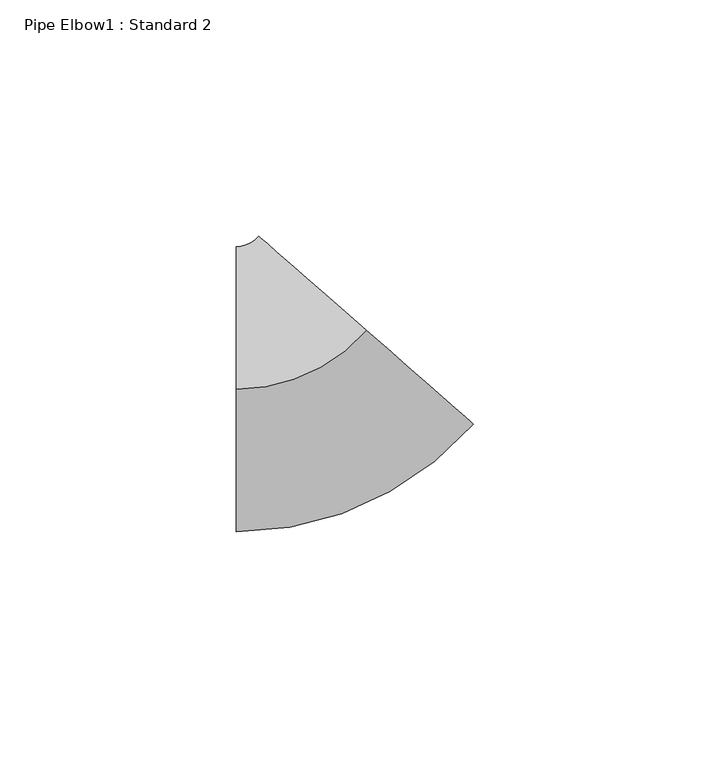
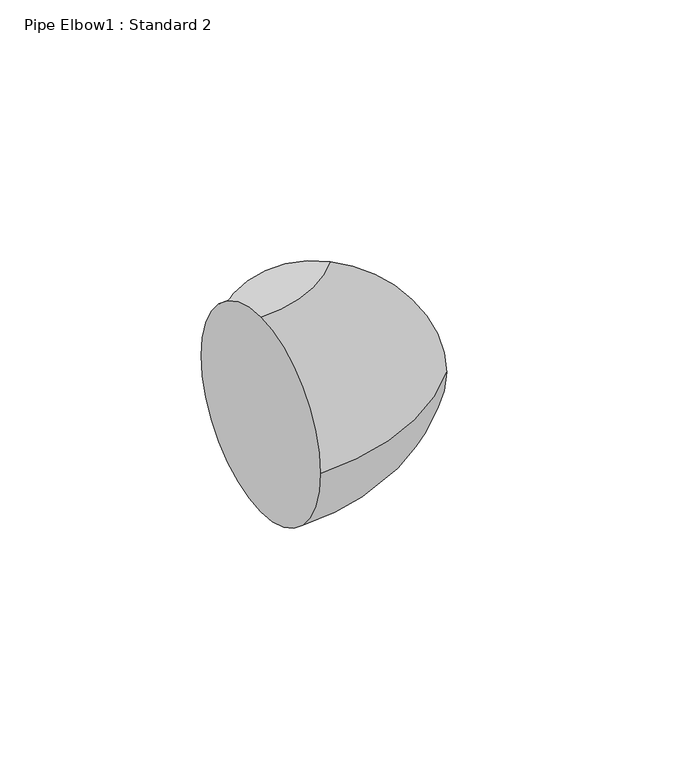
"""IFC4 building model written with IfcOpenShell, lengths in millimetres: pipe fitting geometry, Pipe Elbow1 : Standard 2."""

from ifc_helpers import new_model, si_unit, point, frame, origin, place, context, project, spatial, circle_curve, ellipse_curve, trimmed, source, transform, mapped, element, save
from ifc_brep_helpers import plane_surface, revolved_surface, advanced_brep


def pipe_elbow1_standard_2_c895df00(model_context):
    return source(origin(), model_context, "Body", "AdvancedBrep", [
        advanced_brep(
        [(-16.5682114, 0.0, 30.1625), (-16.5682114, 30.1625, 0.0), (-16.5682114, 0.0, -30.1625), (-16.5682114, -30.1625, 0.0), (10.9102441, 12.4688493, 30.1625), (33.6098378, -7.393297, 0.0), (10.9102441, 12.4688493, -30.1625), (-11.7893496, 32.3309955, 0.0)],
        [
            (0, 1, circle_curve(frame((-16.5682114, 0.0, 0.0), z_axis=(-1.0, 0.0, 0.0), x_axis=(0.0, 1.0, 0.0)), 30.1625)),
            (1, 2, circle_curve(frame((-16.5682114, 0.0, 0.0), z_axis=(-1.0, 0.0, 0.0), x_axis=(0.0, 1.0, 0.0)), 30.1625)),
            (2, 3, circle_curve(frame((-16.5682114, 0.0, 0.0), z_axis=(-1.0, 0.0, 0.0), x_axis=(0.0, 1.0, 0.0)), 30.1625)),
            (3, 0, circle_curve(frame((-16.5682114, 0.0, 0.0), z_axis=(-1.0, 0.0, 0.0), x_axis=(0.0, 1.0, 0.0)), 30.1625)),
            (4, 5, circle_curve(frame((10.9102441, 12.4688493, 0.0), z_axis=(0.6585046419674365, 0.7525766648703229, 0.0), x_axis=(-0.7525766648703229, 0.6585046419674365, 0.0)), 30.1625)),
            (5, 6, circle_curve(frame((10.9102441, 12.4688493, 0.0), z_axis=(0.6585046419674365, 0.7525766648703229, 0.0), x_axis=(-0.7525766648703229, 0.6585046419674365, 0.0)), 30.1625)),
            (6, 7, circle_curve(frame((10.9102441, 12.4688493, 0.0), z_axis=(0.6585046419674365, 0.7525766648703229, 0.0), x_axis=(-0.7525766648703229, 0.6585046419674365, 0.0)), 30.1625)),
            (7, 4, circle_curve(frame((10.9102441, 12.4688493, 0.0), z_axis=(0.6585046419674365, 0.7525766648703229, 0.0), x_axis=(-0.7525766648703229, 0.6585046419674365, 0.0)), 30.1625)),
            (7, 1, circle_curve(frame((-16.5682114, 36.5125, 0.0), z_axis=(0.0, 0.0, -1.0), x_axis=(0.0, -1.0, 0.0)), 6.35)),
            (0, 4, circle_curve(frame((-16.5682114, 36.5125, 30.1625), z_axis=(0.0, 0.0, 1.0), x_axis=(0.0, -1.0, 0.0)), 36.5125)),
            (6, 2, circle_curve(frame((-16.5682114, 36.5125, -30.1625), z_axis=(0.0, 0.0, -1.0), x_axis=(0.0, -1.0, 0.0)), 36.5125)),
            (5, 3, circle_curve(frame((-16.5682114, 36.5125, 0.0), z_axis=(0.0, 0.0, -1.0), x_axis=(0.0, -1.0, 0.0)), 66.675)),
        ],
        [
            plane_surface(frame((-16.5682114, 0.0, 0.0), z_axis=(-1.0, 0.0, 0.0), x_axis=(0.0, 0.0, 1.0))),
            plane_surface(frame((10.9102441, 12.4688493, 0.0), z_axis=(0.6585046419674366, 0.7525766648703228, 0.0), x_axis=(0.0, 0.0, 1.0))),
            revolved_surface(trimmed(ellipse_curve(frame((-16.5682114, 0.0, 0.0), z_axis=(-1.0, 0.0, 0.0), x_axis=(0.0, 1.0, 0.0)), 30.1625, 30.1625), [point((-16.5682114, 0.0, 30.1625))], [point((-16.5682114, 30.1625, 0.0))], True, "CARTESIAN"), (-16.5682114, 36.5125, 0.0), (0.0, 0.0, 1.0)),
            revolved_surface(trimmed(ellipse_curve(frame((-16.5682114, 0.0, 0.0), z_axis=(-1.0, 0.0, 0.0), x_axis=(0.0, 1.0, 0.0)), 30.1625, 30.1625), [point((-16.5682114, 30.1625, 0.0))], [point((-16.5682114, 0.0, -30.1625))], True, "CARTESIAN"), (-16.5682114, 36.5125, 0.0), (0.0, 0.0, 1.0)),
            revolved_surface(trimmed(ellipse_curve(frame((-16.5682114, 0.0, 0.0), z_axis=(-1.0, 0.0, 0.0), x_axis=(0.0, 1.0, 0.0)), 30.1625, 30.1625), [point((-16.5682114, 0.0, -30.1625))], [point((-16.5682114, -30.1625, 0.0))], True, "CARTESIAN"), (-16.5682114, 36.5125, 0.0), (0.0, 0.0, 1.0)),
            revolved_surface(trimmed(ellipse_curve(frame((-16.5682114, 0.0, 0.0), z_axis=(-1.0, 0.0, 0.0), x_axis=(0.0, 1.0, 0.0)), 30.1625, 30.1625), [point((-16.5682114, -30.1625, 0.0))], [point((-16.5682114, 0.0, 30.1625))], True, "CARTESIAN"), (-16.5682114, 36.5125, 0.0), (0.0, 0.0, 1.0)),
        ],
        [
            (0, [[1, 2, 3, 4]]),
            (1, [[5, 6, 7, 8]]),
            (2, [[9, -1, 10, -8]]),
            (3, [[11, -2, -9, -7]]),
            (4, [[12, -3, -11, -6]]),
            (5, [[-10, -4, -12, -5]]),
        ],
    ),
        advanced_brep(
        [(-16.5682114, 0.0, 30.1625), (-16.5682114, 30.1625, 0.0), (-16.5682114, 0.0, -30.1625), (-16.5682114, -30.1625, 0.0), (10.9102441, 12.4688493, 30.1625), (33.6098378, -7.393297, 0.0), (10.9102441, 12.4688493, -30.1625), (-11.7893496, 32.3309955, 0.0)],
        [
            (0, 1, circle_curve(frame((-16.5682114, 0.0, 0.0), z_axis=(-1.0, 0.0, 0.0), x_axis=(0.0, 1.0, 0.0)), 30.1625)),
            (1, 2, circle_curve(frame((-16.5682114, 0.0, 0.0), z_axis=(-1.0, 0.0, 0.0), x_axis=(0.0, 1.0, 0.0)), 30.1625)),
            (2, 3, circle_curve(frame((-16.5682114, 0.0, 0.0), z_axis=(-1.0, 0.0, 0.0), x_axis=(0.0, 1.0, 0.0)), 30.1625)),
            (3, 0, circle_curve(frame((-16.5682114, 0.0, 0.0), z_axis=(-1.0, 0.0, 0.0), x_axis=(0.0, 1.0, 0.0)), 30.1625)),
            (4, 5, circle_curve(frame((10.9102441, 12.4688493, 0.0), z_axis=(0.6585046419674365, 0.7525766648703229, 0.0), x_axis=(-0.7525766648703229, 0.6585046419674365, 0.0)), 30.1625)),
            (5, 6, circle_curve(frame((10.9102441, 12.4688493, 0.0), z_axis=(0.6585046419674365, 0.7525766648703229, 0.0), x_axis=(-0.7525766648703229, 0.6585046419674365, 0.0)), 30.1625)),
            (6, 7, circle_curve(frame((10.9102441, 12.4688493, 0.0), z_axis=(0.6585046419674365, 0.7525766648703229, 0.0), x_axis=(-0.7525766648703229, 0.6585046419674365, 0.0)), 30.1625)),
            (7, 4, circle_curve(frame((10.9102441, 12.4688493, 0.0), z_axis=(0.6585046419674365, 0.7525766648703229, 0.0), x_axis=(-0.7525766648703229, 0.6585046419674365, 0.0)), 30.1625)),
            (7, 1, circle_curve(frame((-16.5682114, 36.5125, 0.0), z_axis=(0.0, 0.0, -1.0), x_axis=(0.0, -1.0, 0.0)), 6.35)),
            (0, 4, circle_curve(frame((-16.5682114, 36.5125, 30.1625), z_axis=(0.0, 0.0, 1.0), x_axis=(0.0, -1.0, 0.0)), 36.5125)),
            (6, 2, circle_curve(frame((-16.5682114, 36.5125, -30.1625), z_axis=(0.0, 0.0, -1.0), x_axis=(0.0, -1.0, 0.0)), 36.5125)),
            (5, 3, circle_curve(frame((-16.5682114, 36.5125, 0.0), z_axis=(0.0, 0.0, -1.0), x_axis=(0.0, -1.0, 0.0)), 66.675)),
        ],
        [
            plane_surface(frame((-16.5682114, 0.0, 0.0), z_axis=(-1.0, 0.0, 0.0), x_axis=(0.0, 0.0, 1.0))),
            plane_surface(frame((10.9102441, 12.4688493, 0.0), z_axis=(0.6585046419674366, 0.7525766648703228, 0.0), x_axis=(0.0, 0.0, 1.0))),
            revolved_surface(trimmed(ellipse_curve(frame((-16.5682114, 0.0, 0.0), z_axis=(-1.0, 0.0, 0.0), x_axis=(0.0, 1.0, 0.0)), 30.1625, 30.1625), [point((-16.5682114, 0.0, 30.1625))], [point((-16.5682114, 30.1625, 0.0))], True, "CARTESIAN"), (-16.5682114, 36.5125, 0.0), (0.0, 0.0, 1.0)),
            revolved_surface(trimmed(ellipse_curve(frame((-16.5682114, 0.0, 0.0), z_axis=(-1.0, 0.0, 0.0), x_axis=(0.0, 1.0, 0.0)), 30.1625, 30.1625), [point((-16.5682114, 30.1625, 0.0))], [point((-16.5682114, 0.0, -30.1625))], True, "CARTESIAN"), (-16.5682114, 36.5125, 0.0), (0.0, 0.0, 1.0)),
            revolved_surface(trimmed(ellipse_curve(frame((-16.5682114, 0.0, 0.0), z_axis=(-1.0, 0.0, 0.0), x_axis=(0.0, 1.0, 0.0)), 30.1625, 30.1625), [point((-16.5682114, 0.0, -30.1625))], [point((-16.5682114, -30.1625, 0.0))], True, "CARTESIAN"), (-16.5682114, 36.5125, 0.0), (0.0, 0.0, 1.0)),
            revolved_surface(trimmed(ellipse_curve(frame((-16.5682114, 0.0, 0.0), z_axis=(-1.0, 0.0, 0.0), x_axis=(0.0, 1.0, 0.0)), 30.1625, 30.1625), [point((-16.5682114, -30.1625, 0.0))], [point((-16.5682114, 0.0, 30.1625))], True, "CARTESIAN"), (-16.5682114, 36.5125, 0.0), (0.0, 0.0, 1.0)),
        ],
        [
            (0, [[1, 2, 3, 4]]),
            (1, [[5, 6, 7, 8]]),
            (2, [[9, -1, 10, -8]]),
            (3, [[11, -2, -9, -7]]),
            (4, [[12, -3, -11, -6]]),
            (5, [[-10, -4, -12, -5]]),
        ],
    ),
    ])


if __name__ == "__main__":
    model = new_model("IFC4")
    model_context = context("Model", 3, world=origin())
    ifc_project = project(units=[si_unit("LENGTHUNIT", "METRE", prefix="MILLI")], contexts=[model_context])
    site = spatial("IfcSite", under=ifc_project)
    building = spatial("IfcBuilding", under=site)
    placement = place(None, origin())
    pipe_elbow1_standard_2_shape = pipe_elbow1_standard_2_c895df00(model_context)
    element("IfcPipeFitting", 1, ObjectType="Pipe Elbow1 : Standard 2", at=placement, inside=building, context=model_context, shape_type="MappedRepresentation", body=[
        mapped(pipe_elbow1_standard_2_shape, transform((0.0, 0.0, 0.0), x_axis=(1.0, 0.0, 0.0), y_axis=(0.0, 1.0, 0.0), z_axis=(0.0, 0.0, 1.0))),
    ])
    save(model, "model.ifc")
